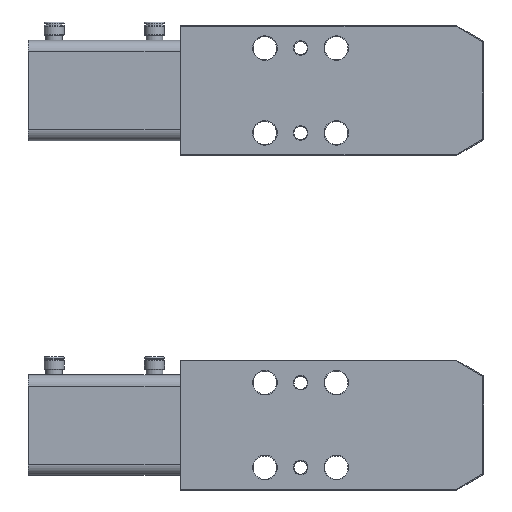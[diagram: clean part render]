
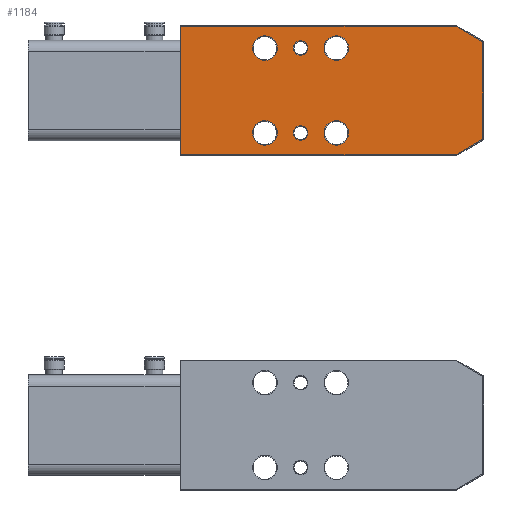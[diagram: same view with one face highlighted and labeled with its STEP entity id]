
A CAD part, top view. The second image highlights one B-rep face of the part: STEP entity #1184.
In plain terms, the highlighted planar face has unit normal (0, 0, 1).
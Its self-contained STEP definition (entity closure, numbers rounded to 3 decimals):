
#1184=ADVANCED_FACE('',(#3027,#3028,#3029,#3030,#3031,#3032,#3033),#3034,.T.);
#3027=FACE_OUTER_BOUND('',#5767,.T.);
#3028=FACE_BOUND('',#5768,.T.);
#3029=FACE_BOUND('',#5769,.T.);
#3030=FACE_BOUND('',#5770,.T.);
#3031=FACE_BOUND('',#5771,.T.);
#3032=FACE_BOUND('',#5772,.T.);
#3033=FACE_BOUND('',#5773,.T.);
#3034=PLANE('',#5774);
#5767=EDGE_LOOP('',(#9314,#9315,#9316,#9317,#9318,#9319));
#5768=EDGE_LOOP('',(#9320));
#5769=EDGE_LOOP('',(#9321));
#5770=EDGE_LOOP('',(#9322));
#5771=EDGE_LOOP('',(#9323));
#5772=EDGE_LOOP('',(#9324));
#5773=EDGE_LOOP('',(#9325));
#5774=AXIS2_PLACEMENT_3D('',#9326,#9327,#9328);
#9314=ORIENTED_EDGE('',*,*,#16525,.T.);
#9315=ORIENTED_EDGE('',*,*,#16526,.T.);
#9316=ORIENTED_EDGE('',*,*,#16527,.T.);
#9317=ORIENTED_EDGE('',*,*,#16528,.T.);
#9318=ORIENTED_EDGE('',*,*,#16176,.T.);
#9319=ORIENTED_EDGE('',*,*,#16529,.T.);
#9320=ORIENTED_EDGE('',*,*,#16530,.T.);
#9321=ORIENTED_EDGE('',*,*,#16179,.T.);
#9322=ORIENTED_EDGE('',*,*,#16531,.T.);
#9323=ORIENTED_EDGE('',*,*,#16532,.T.);
#9324=ORIENTED_EDGE('',*,*,#16533,.T.);
#9325=ORIENTED_EDGE('',*,*,#16534,.T.);
#9326=CARTESIAN_POINT('',(1522.0,139.0,61.));
#9327=DIRECTION('',(0.,0.,1.0));
#9328=DIRECTION('',(0.0,-1.0,0.));
#16176=EDGE_CURVE('',#19059,#19057,#19060,.T.);
#16179=EDGE_CURVE('',#19063,#19063,#19064,.T.);
#16525=EDGE_CURVE('',#19663,#19664,#19665,.T.);
#16526=EDGE_CURVE('',#19664,#19666,#19667,.T.);
#16527=EDGE_CURVE('',#19666,#19668,#19669,.T.);
#16528=EDGE_CURVE('',#19668,#19059,#19670,.T.);
#16529=EDGE_CURVE('',#19057,#19663,#19671,.T.);
#16530=EDGE_CURVE('',#19672,#19672,#19673,.T.);
#16531=EDGE_CURVE('',#19674,#19674,#19675,.T.);
#16532=EDGE_CURVE('',#19676,#19676,#19677,.T.);
#16533=EDGE_CURVE('',#19678,#19678,#19679,.T.);
#16534=EDGE_CURVE('',#19680,#19680,#19681,.T.);
#19057=VERTEX_POINT('',#23365);
#19059=VERTEX_POINT('',#23368);
#19060=LINE('',#23369,#23370);
#19063=VERTEX_POINT('',#23374);
#19064=CIRCLE('',#23375,3.25);
#19663=VERTEX_POINT('',#24301);
#19664=VERTEX_POINT('',#24302);
#19665=LINE('',#24303,#24304);
#19666=VERTEX_POINT('',#24305);
#19667=LINE('',#24306,#24307);
#19668=VERTEX_POINT('',#24308);
#19669=LINE('',#24309,#24310);
#19670=LINE('',#24311,#24312);
#19671=LINE('',#24313,#24314);
#19672=VERTEX_POINT('',#24315);
#19673=CIRCLE('',#24316,3.25);
#19674=VERTEX_POINT('',#24317);
#19675=CIRCLE('',#24318,5.5);
#19676=VERTEX_POINT('',#24319);
#19677=CIRCLE('',#24320,5.5);
#19678=VERTEX_POINT('',#24321);
#19679=CIRCLE('',#24322,5.5);
#19680=VERTEX_POINT('',#24323);
#19681=CIRCLE('',#24324,5.5);
#23365=CARTESIAN_POINT('',(123.75,150.25,61.));
#23368=CARTESIAN_POINT('',(0.25,150.25,61.));
#23369=CARTESIAN_POINT('',(118.613,150.25,61.));
#23370=VECTOR('',#29918,1.0);
#23374=CARTESIAN_POINT('',(50.75,198.0,61.));
#23375=AXIS2_PLACEMENT_3D('',#29920,#29921,#29922);
#24301=CARTESIAN_POINT('',(135.75,157.178,61.));
#24302=CARTESIAN_POINT('',(135.75,200.822,61.));
#24303=CARTESIAN_POINT('',(135.75,197.856,61.));
#24304=VECTOR('',#30180,1.0);
#24305=CARTESIAN_POINT('',(123.75,207.75,61.));
#24306=CARTESIAN_POINT('',(1202.207,-414.898,61.0));
#24307=VECTOR('',#30181,1.0);
#24308=CARTESIAN_POINT('',(0.25,207.75,61.));
#24309=CARTESIAN_POINT('',(0.25,207.75,61.));
#24310=VECTOR('',#30182,1.0);
#24311=CARTESIAN_POINT('',(0.25,150.25,61.));
#24312=VECTOR('',#30183,1.0);
#24313=CARTESIAN_POINT('',(1167.566,752.898,61.));
#24314=VECTOR('',#30184,1.0);
#24315=CARTESIAN_POINT('',(50.75,160.0,61.));
#24316=AXIS2_PLACEMENT_3D('',#30185,#30186,#30187);
#24317=CARTESIAN_POINT('',(64.5,160.0,61.));
#24318=AXIS2_PLACEMENT_3D('',#30188,#30189,#30190);
#24319=CARTESIAN_POINT('',(32.5,160.0,61.));
#24320=AXIS2_PLACEMENT_3D('',#30191,#30192,#30193);
#24321=CARTESIAN_POINT('',(32.5,198.0,61.));
#24322=AXIS2_PLACEMENT_3D('',#30194,#30195,#30196);
#24323=CARTESIAN_POINT('',(64.5,198.0,61.));
#24324=AXIS2_PLACEMENT_3D('',#30197,#30198,#30199);
#29918=DIRECTION('',(1.0,0.0,0.));
#29920=CARTESIAN_POINT('',(54.,198.0,61.));
#29921=DIRECTION('',(0.,0.,-1.0));
#29922=DIRECTION('',(-1.0,0.0,0.));
#30180=DIRECTION('',(0.0,1.0,0.));
#30181=DIRECTION('',(-0.866,0.5,0.));
#30182=DIRECTION('',(-1.0,0.0,0.));
#30183=DIRECTION('',(0.0,-1.0,0.));
#30184=DIRECTION('',(0.866,0.5,0.));
#30185=CARTESIAN_POINT('',(54.,160.0,61.));
#30186=DIRECTION('',(0.,0.,-1.0));
#30187=DIRECTION('',(-1.0,0.0,0.));
#30188=CARTESIAN_POINT('',(70.,160.0,61.));
#30189=DIRECTION('',(0.,0.,-1.0));
#30190=DIRECTION('',(-1.0,0.0,0.));
#30191=CARTESIAN_POINT('',(38.0,160.0,61.));
#30192=DIRECTION('',(0.,0.,-1.0));
#30193=DIRECTION('',(-1.0,0.,0.));
#30194=CARTESIAN_POINT('',(38.0,198.0,61.));
#30195=DIRECTION('',(0.,0.,-1.0));
#30196=DIRECTION('',(-1.0,0.,0.));
#30197=CARTESIAN_POINT('',(70.,198.0,61.));
#30198=DIRECTION('',(0.,0.,-1.0));
#30199=DIRECTION('',(-1.0,0.0,0.));
